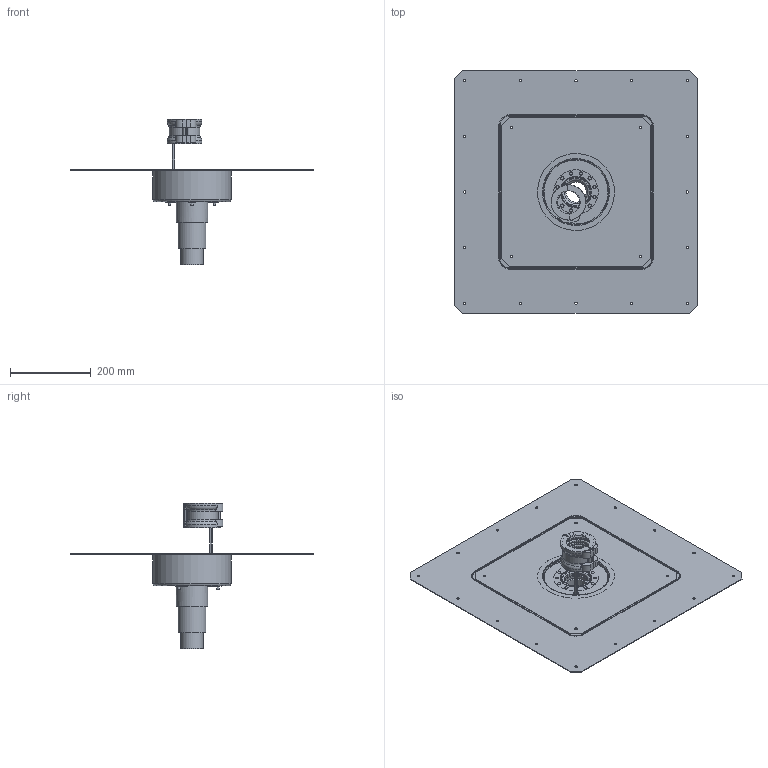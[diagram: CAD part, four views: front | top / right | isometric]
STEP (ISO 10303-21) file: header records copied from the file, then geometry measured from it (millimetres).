
FILE_DESCRIPTION(/* description */ (''),/* implementation_level */ '2;1');
FILE_NAME(/* name */ 'C:\Planerdaten\Export PLA\359.361.00.1\stp\359361.stp',/* time_stamp */ '2020-11-30T13:16:35+01:00',/* author */ ('JANAN'),/* organization */ (''),/* preprocessor_version */ 'ST-DEVELOPER v16.13',/* originating_system */ 'Autodesk Inventor 2018',/* authorisation */ '');
FILE_SCHEMA (('AUTOMOTIVE_DESIGN { 1 0 10303 214 3 1 1 }'));
Products named in the file (1): tmp88A8.tmp
Bounding box: 600 x 600 x 359.4 mm (x, y, z)
Volume: 1250765.6 mm3; surface area: 1352142.3 mm2
Topology: 13 solids, 17 shells, 701 faces, 1882 edges, 1238 vertices
Faces by surface type: cylinder 256, bspline 193, plane 157, torus 54, cone 29, sphere 12
Full cylindrical faces by diameter (mm): 1 x3, 4.8 x7, 5.2 x4, 6 x27, 7 x3, 7.5 x7, 8 x24, 12 x1, 49.95 x1, 56 x1, 56.25 x1, 56.8 x1, 57.6 x1, 58.6 x1, 60.6 x1, 61.2 x1, 63.1 x1, 65.2 x1, 65.7 x1, 66 x1, 68 x1, 70 x1, 72 x1, 75 x1, 78 x2, 110 x2, 190 x2, 193 x1
Entity records: 45608 total; most frequent: CARTESIAN_POINT 28789, ORIENTED_EDGE 3370, DIRECTION 2955, EDGE_CURVE 1685, AXIS2_PLACEMENT_3D 1257, VERTEX_POINT 1202, EDGE_LOOP 1031, STYLED_ITEM 714
